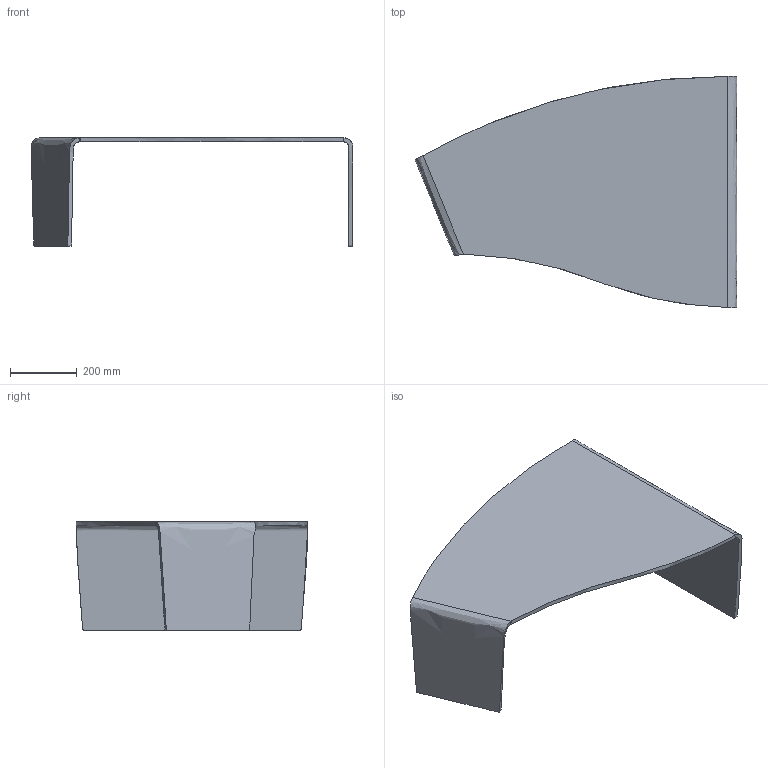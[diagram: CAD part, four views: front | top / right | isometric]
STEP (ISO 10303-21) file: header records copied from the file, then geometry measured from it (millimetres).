
FILE_DESCRIPTION(/* description */ (''),/* implementation_level */ '2;1');
FILE_NAME(/* name */ '0320 - Virgola 98x69 H32',/* time_stamp */ '2010-11-05T09:49:01+01:00',/* author */ (''),/* organization */ (''),/* preprocessor_version */ 'ST-DEVELOPER v10',/* originating_system */ '',/* authorisation */ '');
FILE_SCHEMA (('CONFIG_CONTROL_DESIGN'));
Length unit declared in the file: centimetre
Products named in the file (1): 1
Bounding box: 961.92 x 691.09 x 323.46 mm (x, y, z)
Volume: 9652050.6 mm3; surface area: 1604204.5 mm2
Topology: 1 solids, 1 shells, 11 faces, 19 edges, 10 vertices
Faces by surface type: bspline 9, plane 2
Entity records: 1645 total; most frequent: CARTESIAN_POINT 1427, ORIENTED_EDGE 38, EDGE_CURVE 19, B_SPLINE_CURVE_WITH_KNOTS 14, ADVANCED_FACE 11, FACE_OUTER_BOUND 11, EDGE_LOOP 11, VERTEX_POINT 10
